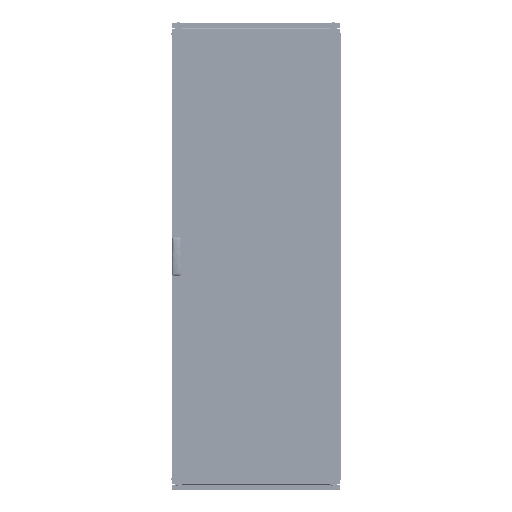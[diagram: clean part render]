
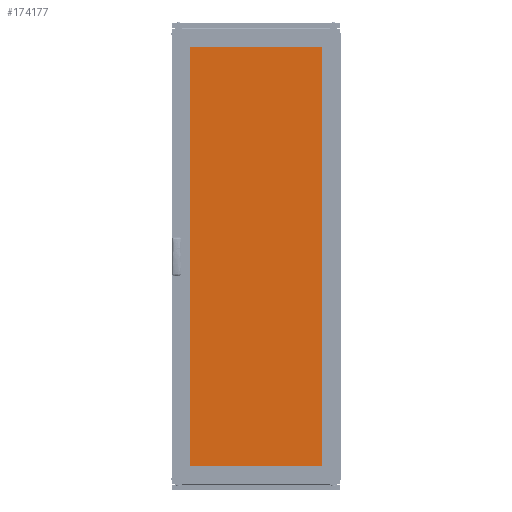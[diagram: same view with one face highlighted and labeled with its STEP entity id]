
A CAD part, top view. The second image highlights one B-rep face of the part: STEP entity #174177.
In plain terms, the highlighted planar face has unit normal (0, 0, 1).
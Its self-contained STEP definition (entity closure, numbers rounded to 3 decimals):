
#1454 = EDGE_CURVE ( 'NONE', #72890, #181929, #106223, .T. ) ;
#10303 = EDGE_CURVE ( 'NONE', #136186, #72890, #221102, .T. ) ;
#17981 = CARTESIAN_POINT ( 'NONE',  ( -330., 1010., 5. ) ) ;
#19385 = PLANE ( 'NONE',  #97006 ) ;
#20614 = DIRECTION ( 'NONE',  ( 0., 0., -1. ) ) ;
#25366 = CARTESIAN_POINT ( 'NONE',  ( -330., -1010., 5. ) ) ;
#34461 = DIRECTION ( 'NONE',  ( 0., 1., 0. ) ) ;
#36841 = CARTESIAN_POINT ( 'NONE',  ( 330., -1010., 5. ) ) ;
#48948 = LINE ( 'NONE', #233322, #103190 ) ;
#49847 = CARTESIAN_POINT ( 'NONE',  ( 330., -1010., 5. ) ) ;
#56490 = ORIENTED_EDGE ( 'NONE', *, *, #221129, .T. ) ;
#59409 = DIRECTION ( 'NONE',  ( -1., 0., 0. ) ) ;
#72890 = VERTEX_POINT ( 'NONE', #168526 ) ;
#86500 = DIRECTION ( 'NONE',  ( 0., -1., 0. ) ) ;
#88018 = CARTESIAN_POINT ( 'NONE',  ( -330., 1010., 5. ) ) ;
#88356 = CARTESIAN_POINT ( 'NONE',  ( -330., -1010., 5. ) ) ;
#97006 = AXIS2_PLACEMENT_3D ( 'NONE', #109137, #20614, #59409 ) ;
#100675 = VERTEX_POINT ( 'NONE', #88356 ) ;
#101883 = VECTOR ( 'NONE', #178939, 1000. ) ;
#102154 = ORIENTED_EDGE ( 'NONE', *, *, #1454, .T. ) ;
#103190 = VECTOR ( 'NONE', #86500, 1000. ) ;
#106223 = LINE ( 'NONE', #88018, #101883 ) ;
#109137 = CARTESIAN_POINT ( 'NONE',  ( 0., 0., 5. ) ) ;
#113012 = VECTOR ( 'NONE', #34461, 1000. ) ;
#117490 = LINE ( 'NONE', #25366, #131736 ) ;
#129366 = ORIENTED_EDGE ( 'NONE', *, *, #10303, .T. ) ;
#131736 = VECTOR ( 'NONE', #207254, 1000. ) ;
#136186 = VERTEX_POINT ( 'NONE', #49847 ) ;
#141441 = EDGE_CURVE ( 'NONE', #181929, #100675, #48948, .T. ) ;
#144515 = ORIENTED_EDGE ( 'NONE', *, *, #141441, .T. ) ;
#168526 = CARTESIAN_POINT ( 'NONE',  ( 330., 1010., 5. ) ) ;
#174177 = ADVANCED_FACE ( 'NONE', ( #183071 ), #19385, .F. ) ;
#178939 = DIRECTION ( 'NONE',  ( -1., 0., 0. ) ) ;
#181929 = VERTEX_POINT ( 'NONE', #17981 ) ;
#183071 = FACE_OUTER_BOUND ( 'NONE', #203006, .T. ) ;
#203006 = EDGE_LOOP ( 'NONE', ( #129366, #102154, #144515, #56490 ) ) ;
#207254 = DIRECTION ( 'NONE',  ( 1., 0., 0. ) ) ;
#221102 = LINE ( 'NONE', #36841, #113012 ) ;
#221129 = EDGE_CURVE ( 'NONE', #100675, #136186, #117490, .T. ) ;
#233322 = CARTESIAN_POINT ( 'NONE',  ( -330., -1010., 5. ) ) ;
